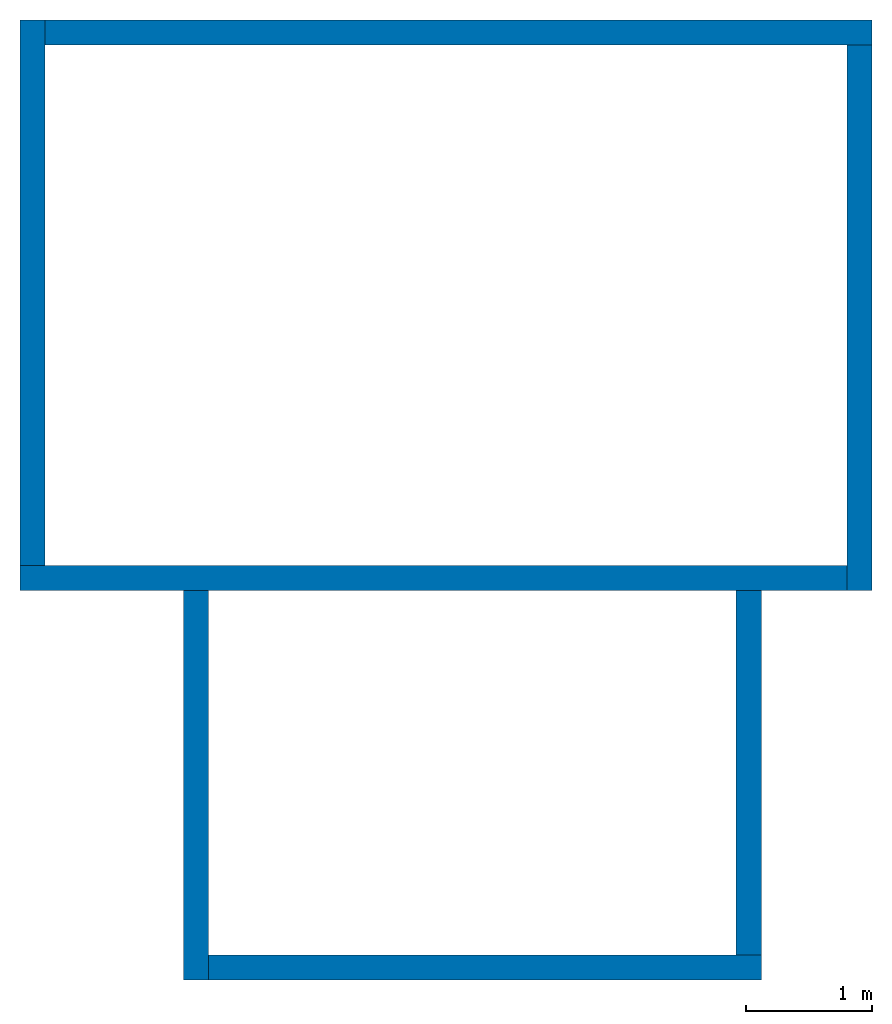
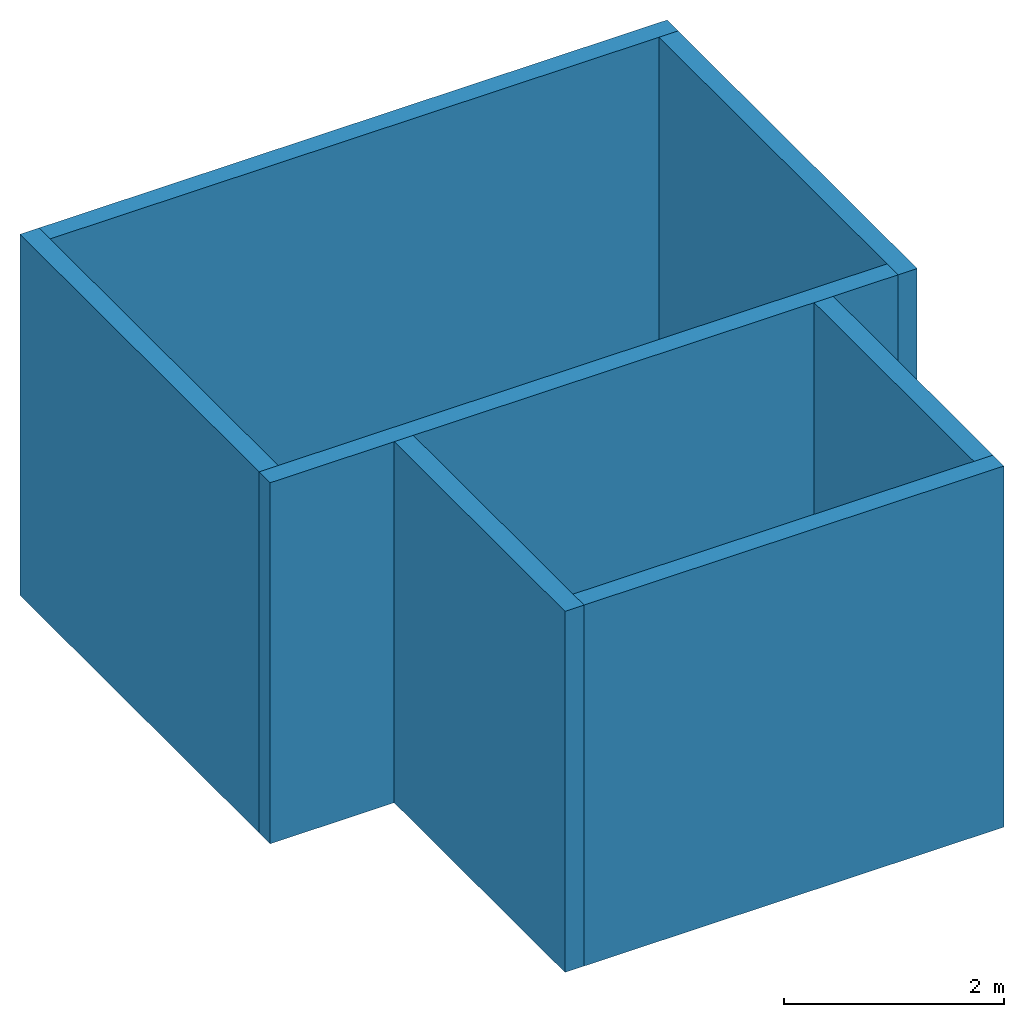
# One storey: 7 walls.
"""IFC2X3 building model written with IfcOpenShell, lengths in millimetres."""

import ifcopenshell
import ifcopenshell.guid

model = None  # the IFC model being written
_history = None  # IfcOwnerHistory: only IFC2X3 demands one
_inside = {}  # id of a spatial element -> (the spatial element, [elements in it])
_under = {}  # id of a project, library or spatial element -> (it, [spatial elements below it])
_declared = {}  # id of a project -> (the project, [libraries it declares])
_typed = {}  # id of a type object -> (the type object, [elements of that type])
_made_of = {}  # id of a material, layer set ... -> (it, [elements and type objects made of it])


def new_model(schema):
    """Start an empty IFC model of exactly this schema.

    Asked for "IFC4X3", IfcOpenShell would pick the latest addendum, in which some entities
    have other attributes; the version numbers below select the first issue.
    IFC2X3 requires an IfcOwnerHistory on every rooted entity: one is made here for all.
    """
    global model, _history
    if schema == "IFC4X3":
        model = ifcopenshell.file(schema_version=(4, 3, 0, 0))
    else:
        model = ifcopenshell.file(schema=schema)
    _inside.clear()
    _under.clear()
    _declared.clear()
    _typed.clear()
    _made_of.clear()
    _history = None
    if model.schema == "IFC2X3":
        org = make("IfcOrganization", Name="unknown")
        user = make(
            "IfcPersonAndOrganization",
            ThePerson=make("IfcPerson", FamilyName="unknown"),
            TheOrganization=org,
        )
        app = make(
            "IfcApplication",
            ApplicationDeveloper=org,
            Version="unknown",
            ApplicationFullName="unknown",
            ApplicationIdentifier="unknown",
        )
        _history = make(
            "IfcOwnerHistory",
            OwningUser=user,
            OwningApplication=app,
            ChangeAction="ADDED",
            CreationDate=0,
        )
    return model


def make(cls, **values):
    """One entity of the class cls with the attributes given. An attribute that is None is left unset."""
    return model.create_entity(
        cls, **{name: value for name, value in values.items() if value is not None}
    )


def entity(cls, *values):
    """Any entity or typed value of the class cls, its attributes in the order of the schema. None: left unset."""
    e = model.create_entity(cls)
    for i, value in enumerate(values):
        if value is not None:
            e[i] = value
    return e


def rooted(cls, **values):
    """An entity with a GlobalId (a new one), such as an element, a storey or a relation."""
    return make(cls, GlobalId=ifcopenshell.guid.new(), OwnerHistory=_history, **values)


def si_unit(unit_type, name, prefix=None):
    """IfcSIUnit, for example si_unit("LENGTHUNIT", "METRE", prefix="MILLI")."""
    return make("IfcSIUnit", UnitType=unit_type, Prefix=prefix, Name=name)


def converted_unit(unit_type, name, factor, base, dimensions=None, offset=None):
    """IfcConversionBasedUnit, such as the inch: factor (a typed value) times the base unit."""
    return make(
        "IfcConversionBasedUnit"
        if offset is None
        else "IfcConversionBasedUnitWithOffset",
        ConversionOffset=offset,
        Dimensions=None
        if dimensions is None
        else entity("IfcDimensionalExponents", *dimensions),
        UnitType=unit_type,
        Name=name,
        ConversionFactor=make(
            "IfcMeasureWithUnit", ValueComponent=factor, UnitComponent=base
        ),
    )


def derived_unit(unit_type, elements):
    """IfcDerivedUnit: a product of units, each with its exponent."""
    return make(
        "IfcDerivedUnit",
        Elements=[
            make("IfcDerivedUnitElement", Unit=unit, Exponent=power)
            for unit, power in elements
        ],
        UnitType=unit_type,
    )


def assignment(units):
    """IfcUnitAssignment: the units of a project."""
    return None if units is None else make("IfcUnitAssignment", Units=units)


def point(xyz):
    """IfcCartesianPoint."""
    return None if xyz is None else make("IfcCartesianPoint", Coordinates=xyz)


def direction(xyz):
    """IfcDirection."""
    return None if xyz is None else make("IfcDirection", DirectionRatios=xyz)


def frame(location, z_axis=None, x_axis=None):
    """IfcAxis2Placement3D, a coordinate frame: its origin and axes. An axis left out is left unset."""
    return make(
        "IfcAxis2Placement3D",
        Location=point(location),
        Axis=direction(z_axis),
        RefDirection=direction(x_axis),
    )


def frame_2d(location, x_axis=None):
    """IfcAxis2Placement2D, a coordinate frame in the plane: its origin and x axis."""
    return make(
        "IfcAxis2Placement2D", Location=point(location), RefDirection=direction(x_axis)
    )


def origin():
    """The frame at (0, 0, 0) with its axes left unset."""
    return frame((0.0, 0.0, 0.0))


def place(relative_to, where):
    """IfcLocalPlacement: puts the frame where relative to a parent placement (None: the world)."""
    return make(
        "IfcLocalPlacement", PlacementRelTo=relative_to, RelativePlacement=where
    )


def context(
    kind, dimensions, precision=None, world=None, true_north=None, identifier=None
):
    """IfcGeometricRepresentationContext, for example the 3D "Model" context."""
    return make(
        "IfcGeometricRepresentationContext",
        ContextIdentifier=identifier,
        ContextType=kind,
        CoordinateSpaceDimension=dimensions,
        Precision=precision,
        WorldCoordinateSystem=world,
        TrueNorth=true_north,
    )


def subcontext(parent, identifier, kind, view, scale=None):
    """IfcGeometricRepresentationSubContext, for example "Body" below "Model"."""
    return make(
        "IfcGeometricRepresentationSubContext",
        ContextIdentifier=identifier,
        ContextType=kind,
        ParentContext=parent,
        TargetScale=scale,
        TargetView=view,
    )


def project(units=None, contexts=None):
    """IfcProject with its units and contexts."""
    return rooted(
        "IfcProject",
        Name="project",
        RepresentationContexts=contexts,
        UnitsInContext=assignment(units),
    )


def spatial(cls, under=None, at=None, **own):
    """A site, building, storey or space (cls), placed at a placement, below another one or the project."""
    s = rooted(cls, ObjectPlacement=at, **own)
    if under is not None:
        _under.setdefault(under.id(), (under, []))[1].append(s)
    return s


def profile(cls, at=None, kind="AREA", **sizes):
    """A parametric profile (cls). Its sizes go by their IFC names, for example OverallWidth=200.0."""
    return make(cls, ProfileType=kind, Position=at, **sizes)


def rectangle(**sizes):
    """IfcRectangleProfileDef."""
    return profile("IfcRectangleProfileDef", **sizes)


def extrude(swept, where, along, depth):
    """IfcExtrudedAreaSolid: the profile swept, set in the frame where, extruded along a direction by depth."""
    return make(
        "IfcExtrudedAreaSolid",
        SweptArea=swept,
        Position=where,
        ExtrudedDirection=direction(along),
        Depth=depth,
    )


def shape(context_of_items, identifier, shape_type, items):
    """IfcShapeRepresentation: the items that make up one representation, for example the "Body"."""
    return make(
        "IfcShapeRepresentation",
        ContextOfItems=context_of_items,
        RepresentationIdentifier=identifier,
        RepresentationType=shape_type,
        Items=items,
    )


def material(Name=None, Category=None):
    """IfcMaterial."""
    return make("IfcMaterial", Name=Name, Category=Category)


def layer(
    of_material, thickness, ventilated=None, Name=None, Category=None, Priority=None
):
    """IfcMaterialLayer: one layer of a wall or slab, of a material (None: an air gap)."""
    return make(
        "IfcMaterialLayer",
        Material=of_material,
        LayerThickness=thickness,
        IsVentilated=ventilated,
        Name=Name,
        Category=Category,
        Priority=Priority,
    )


def layer_set(layers, Name=None):
    """IfcMaterialLayerSet."""
    return make("IfcMaterialLayerSet", MaterialLayers=layers, LayerSetName=Name)


def layer_usage(for_layer_set, set_direction, sense, offset, extent=None):
    """IfcMaterialLayerSetUsage: how a layer set lies in its element."""
    return make(
        "IfcMaterialLayerSetUsage",
        ForLayerSet=for_layer_set,
        LayerSetDirection=set_direction,
        DirectionSense=sense,
        OffsetFromReferenceLine=offset,
        ReferenceExtent=extent,
    )


def made_of(thing, what):
    """Note that an element or type object is made of a material, layer set ...; save() writes the relation."""
    if what is not None:
        _made_of.setdefault(what.id(), (what, []))[1].append(thing)
    return thing


def type_object(cls, material=None, **own):
    """A type object (cls), such as IfcWallType, which elements share."""
    return made_of(rooted(cls, **own), material)


def element(
    cls,
    number,
    at=None,
    inside=None,
    cuts=None,
    type_object=None,
    material=None,
    context=None,
    identifier="Body",
    shape_type=None,
    held_by="IfcProductDefinitionShape",
    body=None,
    shapes=None,
    **own,
):
    """One element of the class cls, such as IfcWall. Its Tag is "e" and its number.

    at: its placement. inside: the storey or other place that contains it. cuts: it is an
    opening in that element (IfcRelVoidsElement). A single representation is given by context,
    identifier, shape_type and body (its items); several are given by shapes. held_by: the class
    of the entity that holds the representations. save() writes the other relations.
    """
    e = rooted(cls, Tag="e%d" % number, ObjectPlacement=at, **own)
    if body is not None:
        shapes = [shape(context, identifier, shape_type, body)]
    if shapes is not None:
        e.Representation = make(held_by, Representations=shapes)
    if inside is not None:
        _inside.setdefault(inside.id(), (inside, []))[1].append(e)
    if cuts is not None:
        rooted(
            "IfcRelVoidsElement", RelatingBuildingElement=cuts, RelatedOpeningElement=e
        )
    if type_object is not None:
        _typed.setdefault(type_object.id(), (type_object, []))[1].append(e)
    return made_of(e, material)


def aggregate(whole, parts):
    """IfcRelAggregates: a whole, such as a stair, and the parts it consists of."""
    return rooted("IfcRelAggregates", RelatingObject=whole, RelatedObjects=parts)


def save(model, path):
    """Write the relations noted so far, then the file.

    IfcRelAggregates (storeys below a building ...), IfcRelContainedInSpatialStructure (elements
    in a storey), IfcRelDefinesByType, IfcRelAssociatesMaterial and IfcRelDeclares: one each for
    every whole, place, type object, material and project.
    """
    for whole, parts in _under.values():
        aggregate(whole, parts)
    for where, things in _inside.values():
        rooted(
            "IfcRelContainedInSpatialStructure",
            RelatedElements=things,
            RelatingStructure=where,
        )
    for kind, things in _typed.values():
        rooted("IfcRelDefinesByType", RelatedObjects=things, RelatingType=kind)
    for what, things in _made_of.values():
        rooted("IfcRelAssociatesMaterial", RelatedObjects=things, RelatingMaterial=what)
    for by, libraries in _declared.values():
        rooted("IfcRelDeclares", RelatingContext=by, RelatedDefinitions=libraries)
    model.write(path)


model = new_model("IFC2X3")

# Units and contexts
model_context = context("Model", 3, precision=1e-05, world=origin(), true_north=direction((2.0, 6.12303176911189e-17, 1.0)))
context_of_model = context(None, 3, precision=1e-05, world=origin(), true_north=direction((2.0, 6.12303176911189e-17, 1.0)))
body_context = subcontext(model_context, "Body", "Model", "MODEL_VIEW")
ifc_project = project(units=[si_unit("LENGTHUNIT", "METRE", prefix="MILLI"), si_unit("AREAUNIT", "SQUARE_METRE"), si_unit("VOLUMEUNIT", "CUBIC_METRE"), converted_unit("PLANEANGLEUNIT", "DEGREE", entity("IfcRatioMeasure", 0.0174532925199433), si_unit("PLANEANGLEUNIT", "RADIAN"), dimensions=[0, 0, 0, 0, 0, 0, 0]), si_unit("MASSUNIT", "GRAM", prefix="KILO"), si_unit("TIMEUNIT", "SECOND"), si_unit("THERMODYNAMICTEMPERATUREUNIT", "KELVIN"), derived_unit("THERMALTRANSMITTANCEUNIT", [(si_unit("MASSUNIT", "GRAM", prefix="KILO"), 1), (si_unit("THERMODYNAMICTEMPERATUREUNIT", "KELVIN"), -1), (si_unit("TIMEUNIT", "SECOND"), -3)]), derived_unit("VOLUMETRICFLOWRATEUNIT", [(si_unit("LENGTHUNIT", "METRE"), 3), (si_unit("TIMEUNIT", "SECOND"), -1)]), si_unit("POWERUNIT", "WATT")], contexts=[model_context, context_of_model])

# Site, building, storey
site_placement = place(None, origin())
site = spatial("IfcSite", under=ifc_project, at=site_placement, Name="Default", CompositionType="ELEMENT")
building_placement = place(site_placement, origin())
building = spatial("IfcBuilding", under=site, at=building_placement, CompositionType="ELEMENT")
storey_placement = place(building_placement, origin())
storey = spatial("IfcBuildingStorey", under=building, at=storey_placement, Name="Level 1", CompositionType="ELEMENT", Elevation=0.0)

# Walls
ifc_material = material(Name="Default Wall")
ifc_layer = layer(ifc_material, 200.0)
ifc_layer_set = layer_set([ifc_layer], Name="Basic Wall:Wall 1")
ifc_layer_usage_1 = layer_usage(ifc_layer_set, "AXIS2", "NEGATIVE", 100.0)
wall_type = type_object("IfcWallType", Name="Basic Wall:Wall 1", PredefinedType="STANDARD", material=ifc_layer_set)
wall_1_placement = place(storey_placement, frame((693.124246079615, 559.408926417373, 0.0)))
element("IfcWallStandardCase", 1, at=wall_1_placement, inside=storey, type_object=wall_type, material=ifc_layer_usage_1, Name="Basic Wall:Wall 1:2277", ObjectType="Basic Wall:Wall 1:1492", context=body_context, shape_type="SweptSolid", body=[
    extrude(rectangle(XDim=6580.0, YDim=200.0, at=frame_2d((3290.0, 0.0), x_axis=(-1.0, 0.0))), origin(), (0.0, 0.0, 1.0), 4000.0),
])
ifc_layer_usage_2 = layer_usage(ifc_layer_set, "AXIS2", "NEGATIVE", 100.0)
wall_2_placement = place(storey_placement, frame((793.124246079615, 4999.40892641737, 0.0), z_axis=(0.0, 0.0, 1.0), x_axis=(0.0, -1.0, 0.0)))
element("IfcWallStandardCase", 2, at=wall_2_placement, inside=storey, type_object=wall_type, material=ifc_layer_usage_2, Name="Basic Wall:Wall 1:2278", ObjectType="Basic Wall:Wall 1:1492", context=body_context, shape_type="SweptSolid", body=[
    extrude(rectangle(XDim=4340.0, YDim=200.0, at=frame_2d((2170.0, 0.0), x_axis=(-1.0, 0.0))), origin(), (0.0, 0.0, 1.0), 4000.0),
])
ifc_layer_usage_3 = layer_usage(ifc_layer_set, "AXIS2", "NEGATIVE", 100.0)
wall_3_placement = place(storey_placement, frame((7473.12424607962, 4899.40892641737, 0.0), z_axis=(0.0, 0.0, 1.0), x_axis=(-1.0, 0.0, 0.0)))
element("IfcWallStandardCase", 3, at=wall_3_placement, inside=storey, type_object=wall_type, material=ifc_layer_usage_3, Name="Basic Wall:Wall 1:2279", ObjectType="Basic Wall:Wall 1:1492", context=body_context, shape_type="SweptSolid", body=[
    extrude(rectangle(XDim=6580.0, YDim=200.0, at=frame_2d((3290.0, 0.0), x_axis=(-1.0, 0.0))), origin(), (0.0, 0.0, 1.0), 4000.0),
])
ifc_layer_usage_4 = layer_usage(ifc_layer_set, "AXIS2", "NEGATIVE", 100.0)
wall_4_placement = place(storey_placement, frame((7373.12424607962, 459.408926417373, 0.0), z_axis=(0.0, 0.0, 1.0), x_axis=(0.0, 1.0, 0.0)))
element("IfcWallStandardCase", 4, at=wall_4_placement, inside=storey, type_object=wall_type, material=ifc_layer_usage_4, Name="Basic Wall:Wall 1:2280", ObjectType="Basic Wall:Wall 1:1492", context=body_context, shape_type="SweptSolid", body=[
    extrude(rectangle(XDim=4340.0, YDim=200.0, at=frame_2d((2170.0, 0.0), x_axis=(-1.0, 0.0))), origin(), (0.0, 0.0, 1.0), 4000.0),
])
ifc_layer_usage_5 = layer_usage(ifc_layer_set, "AXIS2", "NEGATIVE", 100.0)
wall_5_placement = place(storey_placement, frame((2093.12424607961, 459.408926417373, 0.0), z_axis=(0.0, 0.0, 1.0), x_axis=(0.0, -1.0, 0.0)))
element("IfcWallStandardCase", 5, at=wall_5_placement, inside=storey, type_object=wall_type, material=ifc_layer_usage_5, Name="Basic Wall:Wall 1:2354", ObjectType="Basic Wall:Wall 1:1492", context=body_context, shape_type="SweptSolid", body=[
    extrude(rectangle(XDim=3100.0, YDim=200.0, at=frame_2d((1550.0, 2.1316282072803e-14), x_axis=(-1.0, 0.0))), origin(), (0.0, 0.0, 1.0), 4000.0),
])
ifc_layer_usage_6 = layer_usage(ifc_layer_set, "AXIS2", "NEGATIVE", 100.0)
wall_6_placement = place(storey_placement, frame((2193.12424607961, -2540.59107358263, 0.0)))
element("IfcWallStandardCase", 6, at=wall_6_placement, inside=storey, type_object=wall_type, material=ifc_layer_usage_6, Name="Basic Wall:Wall 1:2388", ObjectType="Basic Wall:Wall 1:1492", context=body_context, shape_type="SweptSolid", body=[
    extrude(rectangle(XDim=4400.0, YDim=200.0, at=frame_2d((2200.0, -2.06057393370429e-13), x_axis=(-1.0, 0.0))), origin(), (0.0, 0.0, 1.0), 4000.0),
])
ifc_layer_usage_7 = layer_usage(ifc_layer_set, "AXIS2", "NEGATIVE", 100.0)
wall_7_placement = place(storey_placement, frame((6493.12424607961, -2440.59107358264, 0.0), z_axis=(0.0, 0.0, 1.0), x_axis=(0.0, 1.0, 0.0)))
element("IfcWallStandardCase", 7, at=wall_7_placement, inside=storey, type_object=wall_type, material=ifc_layer_usage_7, Name="Basic Wall:Wall 1:2422", ObjectType="Basic Wall:Wall 1:1492", context=body_context, shape_type="SweptSolid", body=[
    extrude(rectangle(XDim=2900.00000000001, YDim=200.0, at=frame_2d((1450.00000000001, -1.77635683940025e-13), x_axis=(-1.0, 0.0))), origin(), (0.0, 0.0, 1.0), 4000.0),
])

save(model, "model.ifc")
